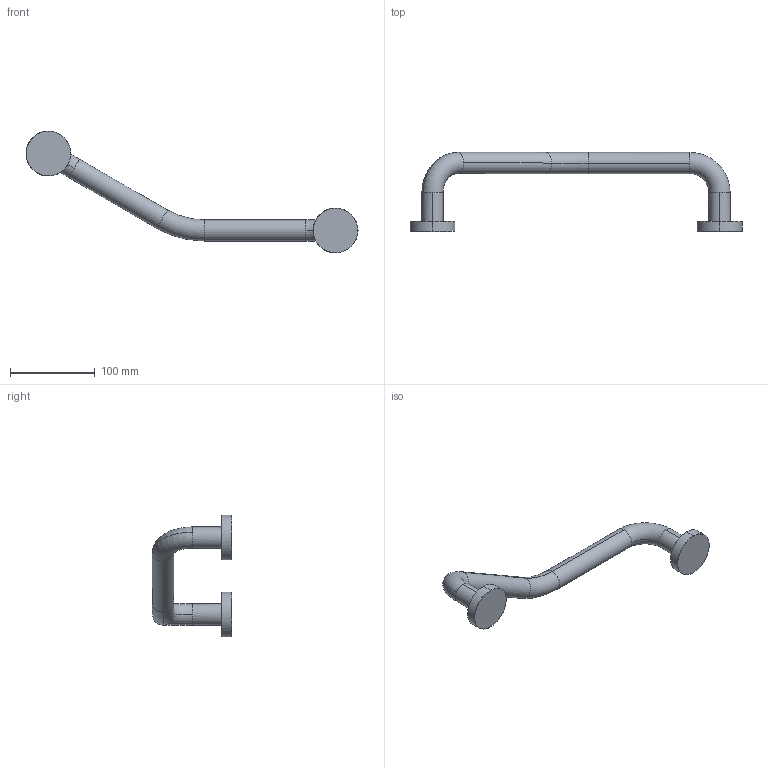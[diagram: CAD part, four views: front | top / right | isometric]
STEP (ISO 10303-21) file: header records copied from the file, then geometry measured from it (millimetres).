
FILE_DESCRIPTION(('THIS FILE CONTAINS SOME STEP INSTANCES'),'1');
FILE_NAME('HAR 043-light.stp','2015-11-18T 8:29:23',('UNDEFINED'),('UNDEFINED'),'T-FLEX CAD STEP converter','T-FLEX CAD','');
FILE_SCHEMA(('CONFIG_CONTROL_DESIGN'));
Length unit declared in the file: metre
Products named in the file (1): har_043
Bounding box: 392.23 x 93.5 x 143.9 mm (x, y, z)
Volume: 283565.5 mm3; surface area: 49604.7 mm2
Topology: 1 solids, 1 shells, 48 faces, 102 edges, 60 vertices
Faces by surface type: cone 20, cylinder 16, torus 6, plane 6
Entity records: 1145 total; most frequent: CARTESIAN_POINT 260, ORIENTED_EDGE 204, DIRECTION 156, EDGE_CURVE 102, AXIS2_PLACEMENT_3D 60, VERTEX_POINT 60, EDGE_LOOP 52, ADVANCED_FACE 48
